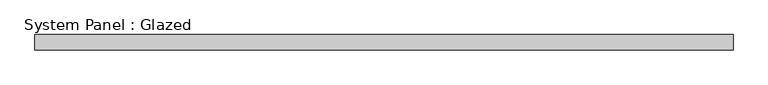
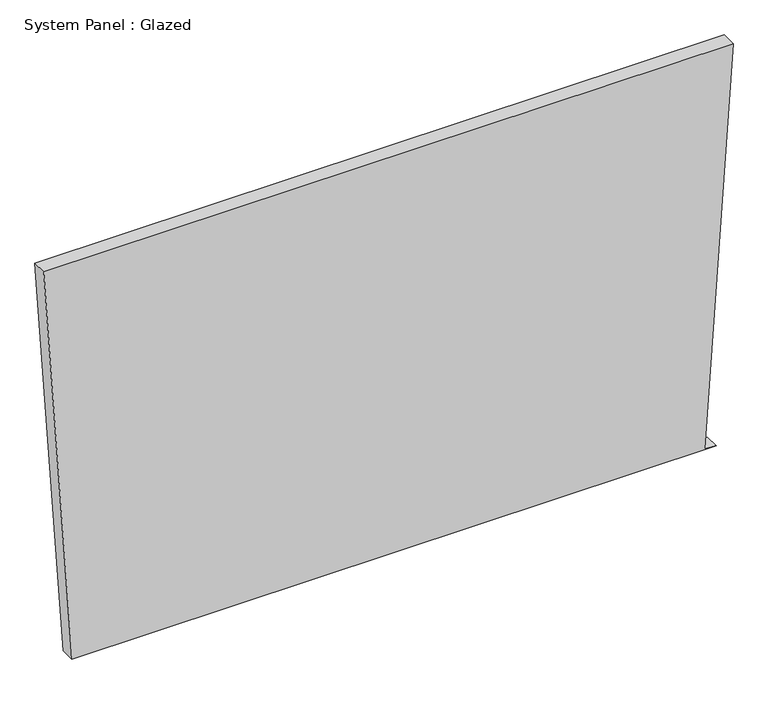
"""IFC4 building model written with IfcOpenShell, lengths in millimetres: plate geometry, System Panel : Glazed."""

from ifc_helpers import new_model, si_unit, frame, origin, place, context, project, spatial, polyline, outline, extrude, source, transform, mapped, element, save


def system_panel_glazed_1a7a9327(model_context):
    return source(origin(), model_context, "Body", "SweptSolid", [
        extrude(outline(polyline([(0.0, -531.3201722), (0.0007723, 550.4132832), (1.2802678, 531.4063005), (704.2181965, 578.7260628), (704.2173702, -578.7260628), (0.0, -531.3201722)])), frame((0.0, 19.05, 0.0), z_axis=(0.0, 1.0, 0.0), x_axis=(0.0, 0.0, 1.0)), (0.0, 0.0, 1.0), 25.4),
    ])


if __name__ == "__main__":
    model = new_model("IFC4")
    model_context = context("Model", 3, world=origin())
    ifc_project = project(units=[si_unit("LENGTHUNIT", "METRE", prefix="MILLI")], contexts=[model_context])
    site = spatial("IfcSite", under=ifc_project)
    building = spatial("IfcBuilding", under=site)
    placement = place(None, origin())
    system_panel_glazed_shape = system_panel_glazed_1a7a9327(model_context)
    element("IfcPlate", 1, ObjectType="System Panel : Glazed", at=placement, inside=building, context=model_context, shape_type="MappedRepresentation", body=[
        mapped(system_panel_glazed_shape, transform((0.0, 0.0, 0.0), x_axis=(1.0, 0.0, 0.0), y_axis=(0.0, 1.0, 0.0), z_axis=(0.0, 0.0, 1.0))),
    ])
    save(model, "model.ifc")
